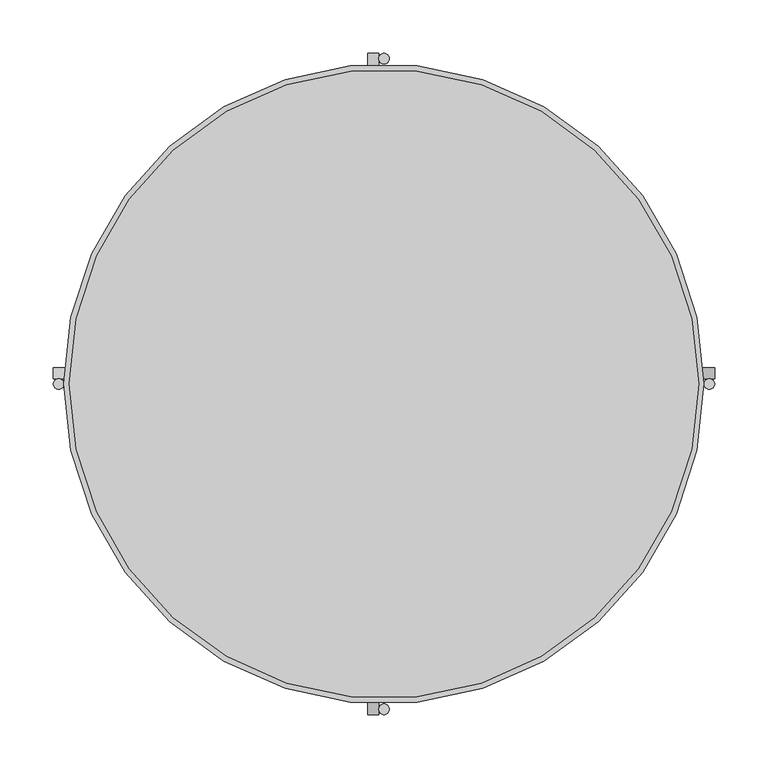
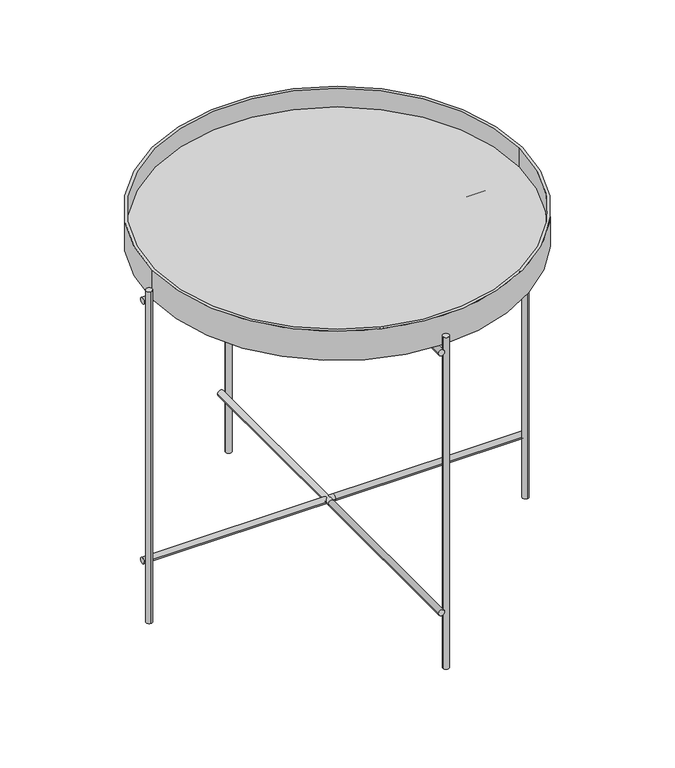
"""IFC4 building model written with IfcOpenShell, lengths in millimetres: furniture geometry, Mobiliário_Mobiliário de Escritório_Mesa de Centro e Apoio Lateral HOS07_Marelli : Mobiliário_Mobiliário de Escritório_Mesa de Centro e Apoio Lateral HOS07_Marelli."""

from ifc_helpers import new_model, si_unit, point, frame, frame_2d, origin, origin_with_axes, place, context, project, spatial, polyline, circle_curve, trimmed, segment, composite_curve, outline, extrude, source, transform, mapped, element, save
from ifc_brep_helpers import plane_surface, cylinder_surface, revolved_surface, advanced_brep


def furniture_02275d27(model_context):
    return source(origin(), model_context, "Body", "SolidModel", [
        extrude(outline(composite_curve([segment(trimmed(circle_curve(frame_2d((0.0, 305.0)), 5.0), [point((-5.0, 305.0))], [point((5.0, 305.0))], False, "CARTESIAN"), True, "CONTINUOUS"), segment(trimmed(circle_curve(frame_2d((0.0, 305.0)), 5.0), [point((5.0, 305.0))], [point((-5.0, 305.0))], False, "CARTESIAN"), True, "CONTINUOUS")], self_intersect=False)), origin_with_axes(), (0.0, 0.0, 1.0), 568.0),
        extrude(outline(composite_curve([segment(trimmed(circle_curve(frame_2d((0.0, -305.0)), 5.0), [point((-5.0, -305.0))], [point((5.0, -305.0))], False, "CARTESIAN"), True, "CONTINUOUS"), segment(trimmed(circle_curve(frame_2d((0.0, -305.0)), 5.0), [point((5.0, -305.0))], [point((-5.0, -305.0))], False, "CARTESIAN"), True, "CONTINUOUS")], self_intersect=False)), origin_with_axes(), (0.0, 0.0, 1.0), 568.0),
        extrude(outline(composite_curve([segment(trimmed(circle_curve(frame_2d((305.0, 0.0)), 5.0), [point((305.0, -5.0))], [point((305.0, 5.0))], False, "CARTESIAN"), True, "CONTINUOUS"), segment(trimmed(circle_curve(frame_2d((305.0, 0.0)), 5.0), [point((305.0, 5.0))], [point((305.0, -5.0))], False, "CARTESIAN"), True, "CONTINUOUS")], self_intersect=False)), origin_with_axes(), (0.0, 0.0, 1.0), 568.0),
        extrude(outline(composite_curve([segment(trimmed(circle_curve(frame_2d((-305.0, 0.0)), 5.0), [point((-305.0, -5.0))], [point((-305.0, 5.0))], False, "CARTESIAN"), True, "CONTINUOUS"), segment(trimmed(circle_curve(frame_2d((-305.0, 0.0)), 5.0), [point((-305.0, 5.0))], [point((-305.0, -5.0))], False, "CARTESIAN"), True, "CONTINUOUS")], self_intersect=False)), origin_with_axes(), (0.0, 0.0, 1.0), 568.0),
        advanced_brep(
        [(-300.0, 0.0, 600.0), (300.0, 0.0, 600.0), (295.0, 0.0, 600.0), (-295.0, 0.0, 600.0), (-300.0, 0.0, 550.0), (300.0, 0.0, 550.0), (-295.0, 0.0, 568.0), (295.0, 0.0, 568.0)],
        [
            (0, 1, circle_curve(frame((0.0, 0.0, 600.0), z_axis=(0.0, 0.0, 1.0), x_axis=(1.0, 0.0, 0.0)), 300.0)),
            (1, 0, circle_curve(frame((0.0, 0.0, 600.0), z_axis=(0.0, 0.0, 1.0), x_axis=(1.0, 0.0, 0.0)), 300.0)),
            (2, 3, circle_curve(frame((0.0, 0.0, 600.0), z_axis=(0.0, 0.0, -1.0), x_axis=(1.0, 0.0, 0.0)), 295.0)),
            (3, 2, circle_curve(frame((0.0, 0.0, 600.0), z_axis=(0.0, 0.0, -1.0), x_axis=(1.0, 0.0, 0.0)), 295.0)),
            (4, 5, circle_curve(frame((0.0, 0.0, 550.0), z_axis=(0.0, 0.0, -1.0), x_axis=(1.0, 0.0, 0.0)), 300.0)),
            (5, 4, circle_curve(frame((0.0, 0.0, 550.0), z_axis=(0.0, 0.0, -1.0), x_axis=(1.0, 0.0, 0.0)), 300.0)),
            (0, 4),
            (5, 1),
            (6, 7, circle_curve(frame((0.0, 0.0, 568.0), z_axis=(0.0, 0.0, 1.0), x_axis=(1.0, 0.0, 0.0)), 295.0)),
            (7, 6, circle_curve(frame((0.0, 0.0, 568.0), z_axis=(0.0, 0.0, 1.0), x_axis=(1.0, 0.0, 0.0)), 295.0)),
            (6, 3),
            (2, 7),
        ],
        [
            plane_surface(frame((300.0, 0.0, 600.0), z_axis=(0.0, 0.0, 1.0), x_axis=(0.0, 1.0, 0.0))),
            plane_surface(frame((300.0, 0.0, 550.0), z_axis=(0.0, 0.0, -1.0), x_axis=(0.0, -1.0, 0.0))),
            cylinder_surface(frame((0.0, 0.0, 550.0), z_axis=(0.0, 0.0, 1.0), x_axis=(1.0, 0.0, 0.0)), 300.0),
            plane_surface(frame((295.0, 0.0, 568.0), z_axis=(0.0, 0.0, 1.0), x_axis=(0.0, -1.0, 0.0))),
            revolved_surface(polyline([(295.0, 0.0, 600.0), (295.0, 0.0, 568.0)]), (0.0, 0.0, 568.0), (0.0, 0.0, 1.0)),
        ],
        [
            (0, [[1, 2], [3, 4]]),
            (1, [[5, 6]]),
            (2, [[-1, 7, -6, 8]]),
            (2, [[-2, -8, -5, -7]]),
            (3, [[9, 10]]),
            (4, [[-9, 11, -3, 12]]),
            (4, [[-10, -12, -4, -11]]),
        ],
    ),
        advanced_brep(
        [(-15.0, 310.0, 100.0), (-5.0, 310.0, 100.0), (-5.0, 0.0, 100.0), (-15.0, 0.0, 100.0), (-15.0, -310.0, 100.0), (-5.0, -310.0, 100.0)],
        [
            (0, 1, circle_curve(frame((-10.0, 310.0, 100.0), z_axis=(0.0, 1.0, 0.0), x_axis=(1.0, 0.0, 0.0)), 5.0)),
            (1, 0, circle_curve(frame((-10.0, 310.0, 100.0), z_axis=(0.0, 1.0, 0.0), x_axis=(1.0, 0.0, 0.0)), 5.0)),
            (1, 2),
            (2, 3, circle_curve(frame((-10.0, 0.0, 100.0), z_axis=(0.0, 1.0, 0.0), x_axis=(1.0, 0.0, 0.0)), 5.0)),
            (3, 0),
            (3, 2, circle_curve(frame((-10.0, 0.0, 100.0), z_axis=(0.0, 1.0, 0.0), x_axis=(1.0, 0.0, 0.0)), 5.0)),
            (4, 5, circle_curve(frame((-10.0, -310.0, 100.0), z_axis=(0.0, -1.0, 0.0), x_axis=(1.0, 0.0, 0.0)), 5.0)),
            (5, 4, circle_curve(frame((-10.0, -310.0, 100.0), z_axis=(0.0, -1.0, 0.0), x_axis=(1.0, 0.0, 0.0)), 5.0)),
            (4, 3),
            (2, 5),
        ],
        [
            plane_surface(frame((-5.0, 310.0, 100.0), z_axis=(0.0, 1.0, 0.0), x_axis=(0.0, 0.0, -1.0))),
            cylinder_surface(frame((-10.0, 310.0, 100.0), z_axis=(0.0, -1.0, 0.0), x_axis=(1.0, 0.0, 0.0)), 5.0),
            plane_surface(frame((-5.0, -310.0, 100.0), z_axis=(0.0, -1.0, 0.0), x_axis=(0.0, 0.0, 1.0))),
            cylinder_surface(frame((-10.0, -310.0, 100.0), z_axis=(0.0, 1.0, 0.0), x_axis=(1.0, 0.0, 0.0)), 5.0),
        ],
        [
            (0, [[1, 2]]),
            (1, [[-2, 3, 4, 5]]),
            (1, [[-1, -5, 6, -3]]),
            (2, [[7, 8]]),
            (3, [[-7, 9, -4, 10]]),
            (3, [[-8, -10, -6, -9]]),
        ],
    ),
        advanced_brep(
        [(-310.0, 5.0, 100.0), (-310.0, 15.0, 100.0), (0.0, 15.0, 100.0), (0.0, 5.0, 100.0), (310.0, 5.0, 100.0), (310.0, 15.0, 100.0)],
        [
            (0, 1, circle_curve(frame((-310.0, 10.0, 100.0), z_axis=(-1.0, 0.0, 0.0), x_axis=(0.0, 1.0, 0.0)), 5.0)),
            (1, 0, circle_curve(frame((-310.0, 10.0, 100.0), z_axis=(-1.0, 0.0, 0.0), x_axis=(0.0, 1.0, 0.0)), 5.0)),
            (1, 2),
            (2, 3, circle_curve(frame((0.0, 10.0, 100.0), z_axis=(-1.0, 0.0, 0.0), x_axis=(0.0, 1.0, 0.0)), 5.0)),
            (3, 0),
            (3, 2, circle_curve(frame((0.0, 10.0, 100.0), z_axis=(-1.0, 0.0, 0.0), x_axis=(0.0, 1.0, 0.0)), 5.0)),
            (4, 5, circle_curve(frame((310.0, 10.0, 100.0), z_axis=(1.0, 0.0, 0.0), x_axis=(0.0, 1.0, 0.0)), 5.0)),
            (5, 4, circle_curve(frame((310.0, 10.0, 100.0), z_axis=(1.0, 0.0, 0.0), x_axis=(0.0, 1.0, 0.0)), 5.0)),
            (4, 3),
            (2, 5),
        ],
        [
            plane_surface(frame((-310.0, 15.0, 100.0), z_axis=(-1.0, 0.0, 0.0), x_axis=(0.0, 0.0, -1.0))),
            cylinder_surface(frame((-310.0, 10.0, 100.0), z_axis=(1.0, 0.0, 0.0), x_axis=(0.0, 1.0, 0.0)), 5.0),
            plane_surface(frame((310.0, 15.0, 100.0), z_axis=(1.0, 0.0, 0.0), x_axis=(0.0, 0.0, 1.0))),
            cylinder_surface(frame((310.0, 10.0, 100.0), z_axis=(-1.0, 0.0, 0.0), x_axis=(0.0, 1.0, 0.0)), 5.0),
        ],
        [
            (0, [[1, 2]]),
            (1, [[-2, 3, 4, 5]]),
            (1, [[-1, -5, 6, -3]]),
            (2, [[7, 8]]),
            (3, [[-7, 9, -4, 10]]),
            (3, [[-8, -10, -6, -9]]),
        ],
    ),
        extrude(outline(composite_curve([segment(trimmed(circle_curve(frame_2d((545.0, -10.0)), 5.0), [point((545.0, -15.0))], [point((545.0, -5.0))], False, "CARTESIAN"), True, "CONTINUOUS"), segment(trimmed(circle_curve(frame_2d((545.0, -10.0)), 5.0), [point((545.0, -5.0))], [point((545.0, -15.0))], False, "CARTESIAN"), True, "CONTINUOUS")], self_intersect=False)), frame((0.0, -310.0, 0.0), z_axis=(0.0, 1.0, 0.0), x_axis=(0.0, 0.0, 1.0)), (0.0, 0.0, 1.0), 130.0),
        extrude(outline(composite_curve([segment(trimmed(circle_curve(frame_2d((545.0, -10.0)), 5.0), [point((545.0, -15.0))], [point((545.0, -5.0))], False, "CARTESIAN"), True, "CONTINUOUS"), segment(trimmed(circle_curve(frame_2d((545.0, -10.0)), 5.0), [point((545.0, -5.0))], [point((545.0, -15.0))], False, "CARTESIAN"), True, "CONTINUOUS")], self_intersect=False)), frame((0.0, 180.0, 0.0), z_axis=(0.0, 1.0, 0.0), x_axis=(0.0, 0.0, 1.0)), (0.0, 0.0, 1.0), 130.0),
        extrude(outline(composite_curve([segment(trimmed(circle_curve(frame_2d((10.0, 545.0)), 5.0), [point((5.0, 545.0))], [point((15.0, 545.0))], False, "CARTESIAN"), True, "CONTINUOUS"), segment(trimmed(circle_curve(frame_2d((10.0, 545.0)), 5.0), [point((15.0, 545.0))], [point((5.0, 545.0))], False, "CARTESIAN"), True, "CONTINUOUS")], self_intersect=False)), frame((-310.0, 0.0, 0.0), z_axis=(1.0, 0.0, 0.0), x_axis=(0.0, 1.0, 0.0)), (0.0, 0.0, 1.0), 130.0),
        extrude(outline(composite_curve([segment(trimmed(circle_curve(frame_2d((10.0, 545.0)), 5.0), [point((5.0, 545.0))], [point((15.0, 545.0))], False, "CARTESIAN"), True, "CONTINUOUS"), segment(trimmed(circle_curve(frame_2d((10.0, 545.0)), 5.0), [point((15.0, 545.0))], [point((5.0, 545.0))], False, "CARTESIAN"), True, "CONTINUOUS")], self_intersect=False)), frame((180.0, 0.0, 0.0), z_axis=(1.0, 0.0, 0.0), x_axis=(0.0, 1.0, 0.0)), (0.0, 0.0, 1.0), 130.0),
    ])


if __name__ == "__main__":
    model = new_model("IFC4")
    model_context = context("Model", 3, world=origin())
    ifc_project = project(units=[si_unit("LENGTHUNIT", "METRE", prefix="MILLI")], contexts=[model_context])
    site = spatial("IfcSite", under=ifc_project)
    building = spatial("IfcBuilding", under=site)
    placement = place(None, origin())
    furniture_shape = furniture_02275d27(model_context)
    element("IfcFurniture", 1, ObjectType="Mobiliário_Mobiliário de Escritório_Mesa de Centro e Apoio Lateral HOS07_Marelli : Mobiliário_Mobiliário de Escritório_Mesa de Centro e Apoio Lateral HOS07_Marelli", at=placement, inside=building, context=model_context, shape_type="MappedRepresentation", body=[
        mapped(furniture_shape, transform((0.0, 0.0, 0.0), x_axis=(1.0, 0.0, 0.0), y_axis=(0.0, 1.0, 0.0), z_axis=(0.0, 0.0, 1.0))),
    ])
    save(model, "model.ifc")
